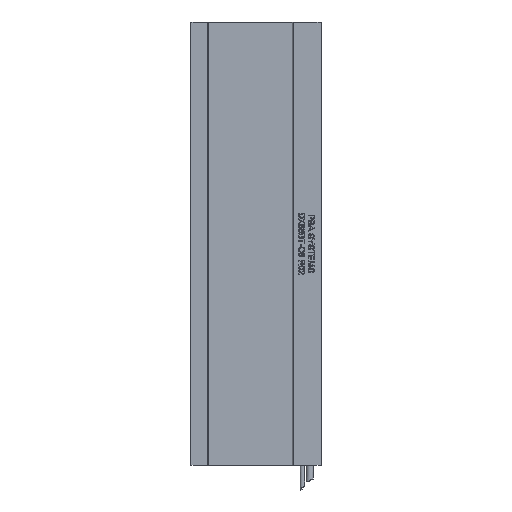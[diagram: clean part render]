
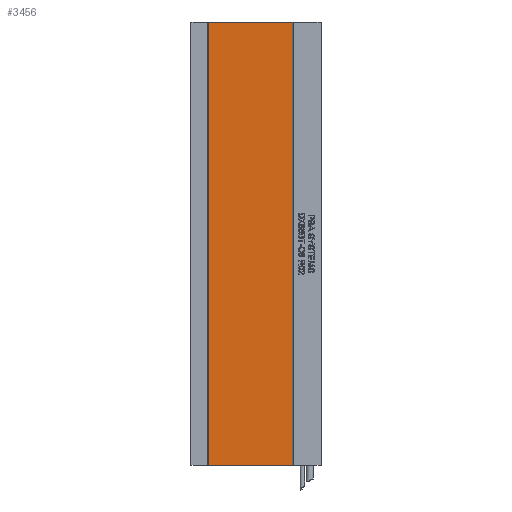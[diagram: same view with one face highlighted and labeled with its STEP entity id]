
A CAD part, left-side view. The second image highlights one B-rep face of the part: STEP entity #3456.
In plain terms, the highlighted planar face has unit normal (-1, 0, 0) as drawn and (1, 0, 0) by its records, which use the part's own axes.
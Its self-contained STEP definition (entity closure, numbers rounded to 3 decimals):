
#1071 = ORIENTED_EDGE ( 'NONE', *, *, #7768, .F. ) ;
#1260 = ORIENTED_EDGE ( 'NONE', *, *, #37179, .T. ) ;
#1722 = CARTESIAN_POINT ( 'NONE',  ( 5.6, 14.2, 361. ) ) ;
#2426 = PLANE ( 'NONE',  #38300 ) ;
#3456 = ADVANCED_FACE ( 'NONE', ( #39231 ), #2426, .F. ) ;
#4129 = VERTEX_POINT ( 'NONE', #23179 ) ;
#5088 = CARTESIAN_POINT ( 'NONE',  ( 5.6, 82.7, 361. ) ) ;
#5579 = LINE ( 'NONE', #30726, #23131 ) ;
#6207 = VERTEX_POINT ( 'NONE', #23152 ) ;
#6619 = VECTOR ( 'NONE', #13654, 1000. ) ;
#6832 = ORIENTED_EDGE ( 'NONE', *, *, #39608, .F. ) ;
#7768 = EDGE_CURVE ( 'NONE', #4129, #37911, #28357, .T. ) ;
#9266 = EDGE_LOOP ( 'NONE', ( #1260, #6832, #1071, #24174 ) ) ;
#11279 = VERTEX_POINT ( 'NONE', #17777 ) ;
#13654 = DIRECTION ( 'NONE',  ( 0., 1., 0. ) ) ;
#17777 = CARTESIAN_POINT ( 'NONE',  ( 5.6, 14.2, 0. ) ) ;
#20794 = DIRECTION ( 'NONE',  ( 0., 0., -1. ) ) ;
#23131 = VECTOR ( 'NONE', #33751, 1000. ) ;
#23152 = CARTESIAN_POINT ( 'NONE',  ( 5.6, 82.7, 0. ) ) ;
#23179 = CARTESIAN_POINT ( 'NONE',  ( 5.6, 14.2, 361. ) ) ;
#24174 = ORIENTED_EDGE ( 'NONE', *, *, #38876, .T. ) ;
#26509 = VECTOR ( 'NONE', #33147, 1000. ) ;
#28351 = VECTOR ( 'NONE', #20794, 1000. ) ;
#28357 = LINE ( 'NONE', #33412, #26509 ) ;
#28935 = CARTESIAN_POINT ( 'NONE',  ( 5.6, 14.2, 0. ) ) ;
#30726 = CARTESIAN_POINT ( 'NONE',  ( 5.6, 14.2, 361. ) ) ;
#30982 = CARTESIAN_POINT ( 'NONE',  ( 5.6, 82.7, 361. ) ) ;
#32399 = DIRECTION ( 'NONE',  ( 0., 0., 1. ) ) ;
#32447 = DIRECTION ( 'NONE',  ( -1., 0., 0. ) ) ;
#33147 = DIRECTION ( 'NONE',  ( 0., 1., 0. ) ) ;
#33412 = CARTESIAN_POINT ( 'NONE',  ( 5.6, 14.2, 361. ) ) ;
#33751 = DIRECTION ( 'NONE',  ( 0., 0., -1. ) ) ;
#37179 = EDGE_CURVE ( 'NONE', #11279, #6207, #40189, .T. ) ;
#37382 = LINE ( 'NONE', #5088, #28351 ) ;
#37911 = VERTEX_POINT ( 'NONE', #30982 ) ;
#38300 = AXIS2_PLACEMENT_3D ( 'NONE', #1722, #32447, #32399 ) ;
#38876 = EDGE_CURVE ( 'NONE', #4129, #11279, #5579, .T. ) ;
#39231 = FACE_OUTER_BOUND ( 'NONE', #9266, .T. ) ;
#39608 = EDGE_CURVE ( 'NONE', #37911, #6207, #37382, .T. ) ;
#40189 = LINE ( 'NONE', #28935, #6619 ) ;
